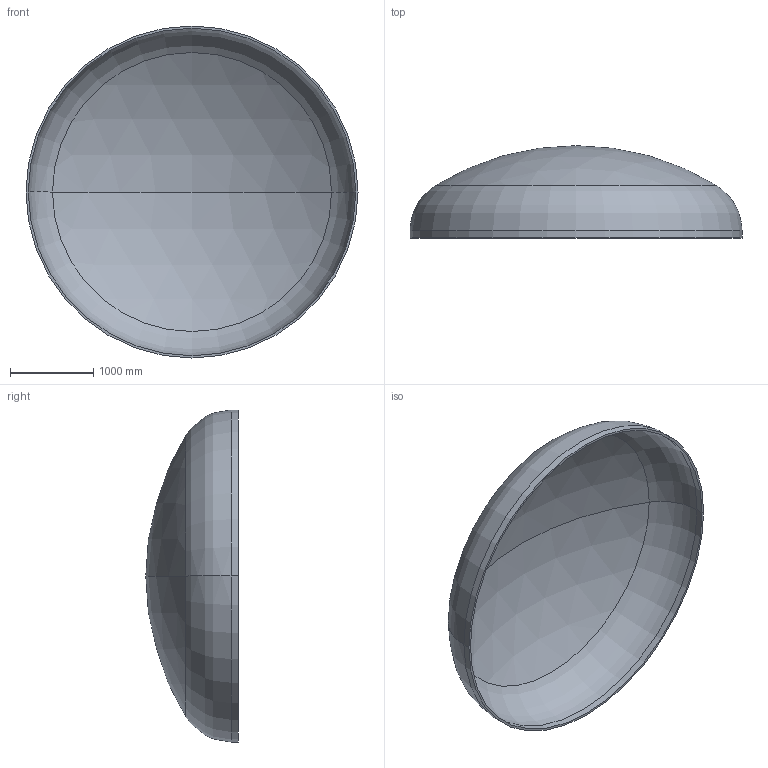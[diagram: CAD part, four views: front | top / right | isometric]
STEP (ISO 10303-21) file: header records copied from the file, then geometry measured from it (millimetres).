
FILE_DESCRIPTION (( 'STEP AP203' ), '1' );
FILE_NAME ('DIN 28013 Korbbogenform_-_Boden DIN 28013 - 4000 x 85 - I - s=27.step', '2016-07-01T22:12:54', ( '' ), ( '' ), 'SwSTEP 2.0', 'SolidWorks 2013', '' );
FILE_SCHEMA (( 'CONFIG_CONTROL_DESIGN' ));
Length unit declared in the file: millimetre
Products named in the file (1): DIN 28013 Korbbogenform_-_Boden DIN 28013 - 4000 x 85 - I - s=27
Bounding box: 4000 x 1112.44 x 4000 mm (x, y, z)
Volume: 494243811.5 mm3; surface area: 36949167.2 mm2
Topology: 1 solids, 1 shells, 13 faces, 24 edges, 14 vertices
Faces by surface type: torus 4, cylinder 4, sphere 4, plane 1
Entity records: 407 total; most frequent: DIRECTION 72, CARTESIAN_POINT 52, ORIENTED_EDGE 48, AXIS2_PLACEMENT_3D 34, EDGE_CURVE 24, CIRCLE 20, VERTEX_POINT 14, EDGE_LOOP 14
